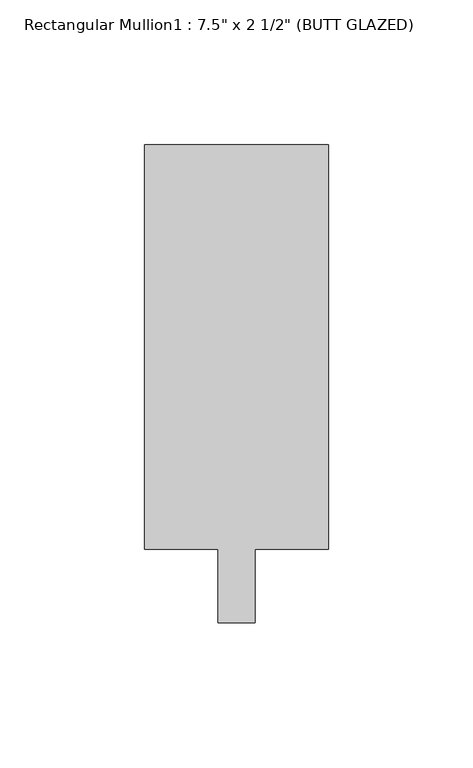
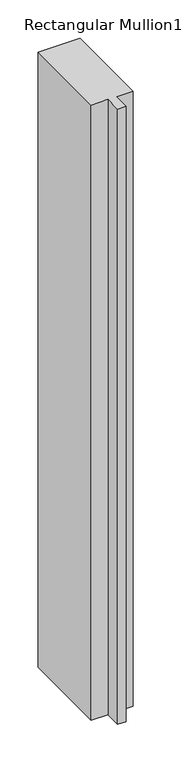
"""IFC4 building model written with IfcOpenShell, lengths in millimetres: member geometry."""

import ifcopenshell
import ifcopenshell.guid

model = None  # the IFC model being written
_history = None  # IfcOwnerHistory: only IFC2X3 demands one
_inside = {}  # id of a spatial element -> (the spatial element, [elements in it])
_under = {}  # id of a project, library or spatial element -> (it, [spatial elements below it])
_declared = {}  # id of a project -> (the project, [libraries it declares])
_typed = {}  # id of a type object -> (the type object, [elements of that type])
_made_of = {}  # id of a material, layer set ... -> (it, [elements and type objects made of it])


def new_model(schema):
    """Start an empty IFC model of exactly this schema.

    Asked for "IFC4X3", IfcOpenShell would pick the latest addendum, in which some entities
    have other attributes; the version numbers below select the first issue.
    IFC2X3 requires an IfcOwnerHistory on every rooted entity: one is made here for all.
    """
    global model, _history
    if schema == "IFC4X3":
        model = ifcopenshell.file(schema_version=(4, 3, 0, 0))
    else:
        model = ifcopenshell.file(schema=schema)
    _inside.clear()
    _under.clear()
    _declared.clear()
    _typed.clear()
    _made_of.clear()
    _history = None
    if model.schema == "IFC2X3":
        org = make("IfcOrganization", Name="unknown")
        user = make(
            "IfcPersonAndOrganization",
            ThePerson=make("IfcPerson", FamilyName="unknown"),
            TheOrganization=org,
        )
        app = make(
            "IfcApplication",
            ApplicationDeveloper=org,
            Version="unknown",
            ApplicationFullName="unknown",
            ApplicationIdentifier="unknown",
        )
        _history = make(
            "IfcOwnerHistory",
            OwningUser=user,
            OwningApplication=app,
            ChangeAction="ADDED",
            CreationDate=0,
        )
    return model


def make(cls, **values):
    """One entity of the class cls with the attributes given. An attribute that is None is left unset."""
    return model.create_entity(
        cls, **{name: value for name, value in values.items() if value is not None}
    )


def rooted(cls, **values):
    """An entity with a GlobalId (a new one), such as an element, a storey or a relation."""
    return make(cls, GlobalId=ifcopenshell.guid.new(), OwnerHistory=_history, **values)


def si_unit(unit_type, name, prefix=None):
    """IfcSIUnit, for example si_unit("LENGTHUNIT", "METRE", prefix="MILLI")."""
    return make("IfcSIUnit", UnitType=unit_type, Prefix=prefix, Name=name)


def assignment(units):
    """IfcUnitAssignment: the units of a project."""
    return None if units is None else make("IfcUnitAssignment", Units=units)


def point(xyz):
    """IfcCartesianPoint."""
    return None if xyz is None else make("IfcCartesianPoint", Coordinates=xyz)


def direction(xyz):
    """IfcDirection."""
    return None if xyz is None else make("IfcDirection", DirectionRatios=xyz)


def frame(location, z_axis=None, x_axis=None):
    """IfcAxis2Placement3D, a coordinate frame: its origin and axes. An axis left out is left unset."""
    return make(
        "IfcAxis2Placement3D",
        Location=point(location),
        Axis=direction(z_axis),
        RefDirection=direction(x_axis),
    )


def origin():
    """The frame at (0, 0, 0) with its axes left unset."""
    return frame((0.0, 0.0, 0.0))


def place(relative_to, where):
    """IfcLocalPlacement: puts the frame where relative to a parent placement (None: the world)."""
    return make(
        "IfcLocalPlacement", PlacementRelTo=relative_to, RelativePlacement=where
    )


def context(
    kind, dimensions, precision=None, world=None, true_north=None, identifier=None
):
    """IfcGeometricRepresentationContext, for example the 3D "Model" context."""
    return make(
        "IfcGeometricRepresentationContext",
        ContextIdentifier=identifier,
        ContextType=kind,
        CoordinateSpaceDimension=dimensions,
        Precision=precision,
        WorldCoordinateSystem=world,
        TrueNorth=true_north,
    )


def project(units=None, contexts=None):
    """IfcProject with its units and contexts."""
    return rooted(
        "IfcProject",
        Name="project",
        RepresentationContexts=contexts,
        UnitsInContext=assignment(units),
    )


def spatial(cls, under=None, at=None, **own):
    """A site, building, storey or space (cls), placed at a placement, below another one or the project."""
    s = rooted(cls, ObjectPlacement=at, **own)
    if under is not None:
        _under.setdefault(under.id(), (under, []))[1].append(s)
    return s


def polyline(points):
    """IfcPolyline through the points."""
    return make("IfcPolyline", Points=[point(p) for p in points])


def outline(outer, holes=None, kind="AREA"):
    """IfcArbitraryClosedProfileDef: a profile drawn as a closed curve; with holes, ...WithVoids."""
    if holes is None:
        return make("IfcArbitraryClosedProfileDef", ProfileType=kind, OuterCurve=outer)
    return make(
        "IfcArbitraryProfileDefWithVoids",
        ProfileType=kind,
        OuterCurve=outer,
        InnerCurves=holes,
    )


def extrude(swept, where, along, depth):
    """IfcExtrudedAreaSolid: the profile swept, set in the frame where, extruded along a direction by depth."""
    return make(
        "IfcExtrudedAreaSolid",
        SweptArea=swept,
        Position=where,
        ExtrudedDirection=direction(along),
        Depth=depth,
    )


def shape(context_of_items, identifier, shape_type, items):
    """IfcShapeRepresentation: the items that make up one representation, for example the "Body"."""
    return make(
        "IfcShapeRepresentation",
        ContextOfItems=context_of_items,
        RepresentationIdentifier=identifier,
        RepresentationType=shape_type,
        Items=items,
    )


def source(mapping_origin, context_of_items, identifier, shape_type, items):
    """IfcRepresentationMap: a shape defined once, which mapped items show again and again."""
    return make(
        "IfcRepresentationMap",
        MappingOrigin=mapping_origin,
        MappedRepresentation=shape(context_of_items, identifier, shape_type, items),
    )


def transform(
    local_origin,
    x_axis=None,
    y_axis=None,
    z_axis=None,
    scale=None,
    scale2=None,
    scale3=None,
    uniform=True,
):
    """IfcCartesianTransformationOperator3D, or its non-uniform kind. x_axis, y_axis, z_axis: its Axis1, 2, 3."""
    if uniform:
        return make(
            "IfcCartesianTransformationOperator3D",
            Axis1=direction(x_axis),
            Axis2=direction(y_axis),
            LocalOrigin=point(local_origin),
            Scale=scale,
            Axis3=direction(z_axis),
        )
    return make(
        "IfcCartesianTransformationOperator3DnonUniform",
        Axis1=direction(x_axis),
        Axis2=direction(y_axis),
        LocalOrigin=point(local_origin),
        Scale=scale,
        Axis3=direction(z_axis),
        Scale2=scale2,
        Scale3=scale3,
    )


def mapped(mapping_source, mapping_target):
    """IfcMappedItem: shows the shape of a source again, moved by a transform."""
    return make(
        "IfcMappedItem", MappingSource=mapping_source, MappingTarget=mapping_target
    )


def made_of(thing, what):
    """Note that an element or type object is made of a material, layer set ...; save() writes the relation."""
    if what is not None:
        _made_of.setdefault(what.id(), (what, []))[1].append(thing)
    return thing


def element(
    cls,
    number,
    at=None,
    inside=None,
    cuts=None,
    type_object=None,
    material=None,
    context=None,
    identifier="Body",
    shape_type=None,
    held_by="IfcProductDefinitionShape",
    body=None,
    shapes=None,
    **own,
):
    """One element of the class cls, such as IfcWall. Its Tag is "e" and its number.

    at: its placement. inside: the storey or other place that contains it. cuts: it is an
    opening in that element (IfcRelVoidsElement). A single representation is given by context,
    identifier, shape_type and body (its items); several are given by shapes. held_by: the class
    of the entity that holds the representations. save() writes the other relations.
    """
    e = rooted(cls, Tag="e%d" % number, ObjectPlacement=at, **own)
    if body is not None:
        shapes = [shape(context, identifier, shape_type, body)]
    if shapes is not None:
        e.Representation = make(held_by, Representations=shapes)
    if inside is not None:
        _inside.setdefault(inside.id(), (inside, []))[1].append(e)
    if cuts is not None:
        rooted(
            "IfcRelVoidsElement", RelatingBuildingElement=cuts, RelatedOpeningElement=e
        )
    if type_object is not None:
        _typed.setdefault(type_object.id(), (type_object, []))[1].append(e)
    return made_of(e, material)


def aggregate(whole, parts):
    """IfcRelAggregates: a whole, such as a stair, and the parts it consists of."""
    return rooted("IfcRelAggregates", RelatingObject=whole, RelatedObjects=parts)


def save(model, path):
    """Write the relations noted so far, then the file.

    IfcRelAggregates (storeys below a building ...), IfcRelContainedInSpatialStructure (elements
    in a storey), IfcRelDefinesByType, IfcRelAssociatesMaterial and IfcRelDeclares: one each for
    every whole, place, type object, material and project.
    """
    for whole, parts in _under.values():
        aggregate(whole, parts)
    for where, things in _inside.values():
        rooted(
            "IfcRelContainedInSpatialStructure",
            RelatedElements=things,
            RelatingStructure=where,
        )
    for kind, things in _typed.values():
        rooted("IfcRelDefinesByType", RelatedObjects=things, RelatingType=kind)
    for what, things in _made_of.values():
        rooted("IfcRelAssociatesMaterial", RelatedObjects=things, RelatingMaterial=what)
    for by, libraries in _declared.values():
        rooted("IfcRelDeclares", RelatingContext=by, RelatedDefinitions=libraries)
    model.write(path)


def member_3068ff72(model_context):
    return source(origin(), model_context, "Body", "SweptSolid", [
        extrude(outline(polyline([(31.75, 165.1), (31.75, 25.4), (6.35, 25.4), (6.35, 0.0), (-6.35, 0.0), (-6.35, 25.4), (-31.75, 25.4), (-31.75, 165.1), (31.75, 165.1)])), frame((0.0, 0.0, -984.25), z_axis=(0.0, 0.0, 1.0), x_axis=(1.0, 0.0, 0.0)), (0.0, 0.0, 1.0), 984.25),
    ])


if __name__ == "__main__":
    model = new_model("IFC4")
    model_context = context("Model", 3, world=origin())
    ifc_project = project(units=[si_unit("LENGTHUNIT", "METRE", prefix="MILLI")], contexts=[model_context])
    site = spatial("IfcSite", under=ifc_project)
    building = spatial("IfcBuilding", under=site)
    placement = place(None, origin())
    member_shape = member_3068ff72(model_context)
    element("IfcMember", 1, ObjectType="Rectangular Mullion1 : 7.5\" x 2 1/2\" (BUTT GLAZED)", at=placement, inside=building, context=model_context, shape_type="MappedRepresentation", body=[
        mapped(member_shape, transform((0.0, 0.0, 0.0), x_axis=(1.0, 0.0, 0.0), y_axis=(0.0, 1.0, 0.0), z_axis=(0.0, 0.0, 1.0))),
    ])
    save(model, "model.ifc")
